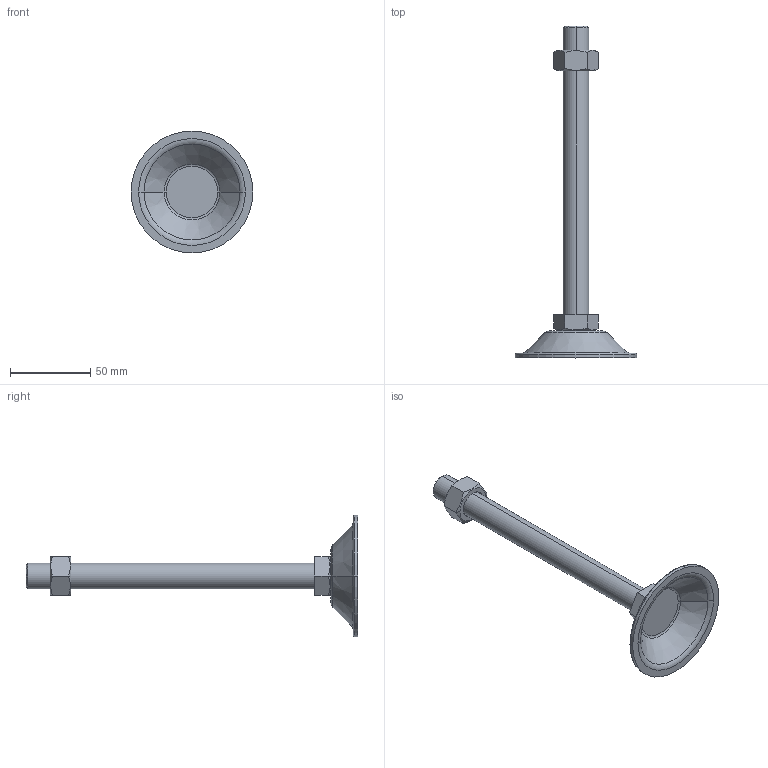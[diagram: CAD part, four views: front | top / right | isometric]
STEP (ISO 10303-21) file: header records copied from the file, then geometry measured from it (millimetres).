
FILE_DESCRIPTION (( 'STEP AP214' ), '1' );
FILE_NAME ('BL76-M16-180.step', '2021-01-06T05:39:55', ( '' ), ( '' ), 'SwSTEP 2.0', 'SolidWorks 2019', '' );
FILE_SCHEMA (( 'AUTOMOTIVE_DESIGN' ));
Length unit declared in the file: millimetre
Products named in the file (1): BL76-M16-180
Bounding box: 76 x 207 x 76 mm (x, y, z)
Volume: 60961.5 mm3; surface area: 24367.7 mm2
Topology: 3 solids, 3 shells, 53 faces, 110 edges, 66 vertices
Faces by surface type: plane 21, cone 16, torus 10, cylinder 6
Entity records: 1618 total; most frequent: CARTESIAN_POINT 428, DIRECTION 252, ORIENTED_EDGE 220, EDGE_CURVE 110, AXIS2_PLACEMENT_3D 106, VERTEX_POINT 66, EDGE_LOOP 58, ADVANCED_FACE 53
